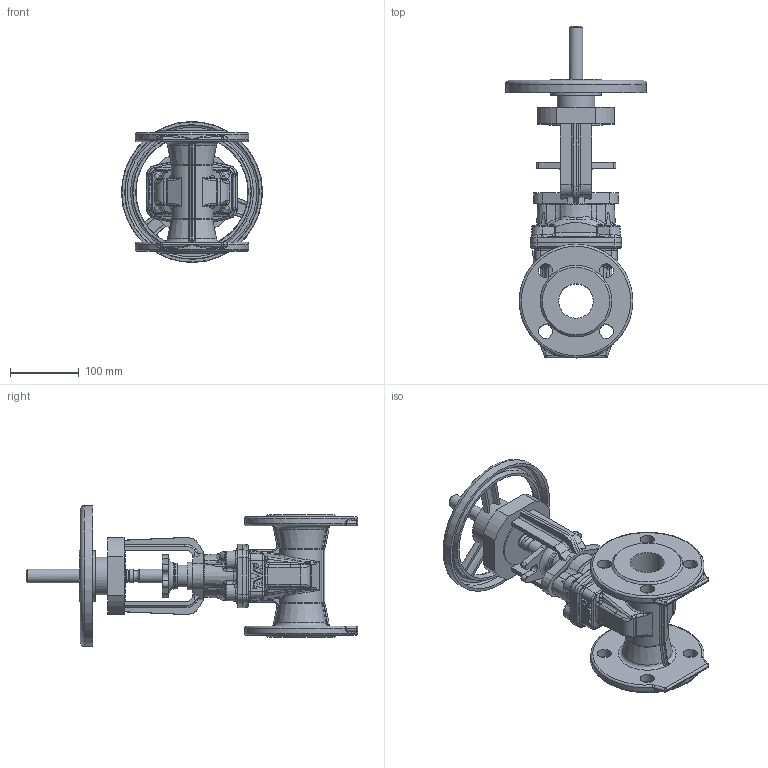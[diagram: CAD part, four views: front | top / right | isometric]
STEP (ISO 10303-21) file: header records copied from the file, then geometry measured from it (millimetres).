
FILE_DESCRIPTION (( 'STEP AP203' ), '1' );
FILE_NAME ('O_21_34_DN050_41XXXXX open_AA0.step', '2020-02-12T08:56:57', ( 'Windows User' ), ( 'AVK' ), 'SwSTEP 2.0', 'SolidWorks 2012', '' );
FILE_SCHEMA (( 'CONFIG_CONTROL_DESIGN' ));
Products named in the file (1): O_21_34_DN050_41XXXXX open_AA0
Bounding box: 204.91 x 482.4 x 204.91 mm (x, y, z)
Volume: 2446037.9 mm3; surface area: 366365.7 mm2
Topology: 1 solids, 1 shells, 810 faces, 1981 edges, 1164 vertices
Faces by surface type: bspline 294, cylinder 186, plane 180, torus 71, cone 67, sphere 12
Full cylindrical faces by diameter (mm): 18 x4, 20 x4, 20.5 x8, 31.9 x1, 37 x1, 40 x1, 50 x1, 55 x1, 74 x1, 165 x2
Entity records: 33301 total; most frequent: CARTESIAN_POINT 16855, ORIENTED_EDGE 3790, DIRECTION 2918, EDGE_CURVE 1895, AXIS2_PLACEMENT_3D 1178, VERTEX_POINT 1145, EDGE_LOOP 896, FACE_OUTER_BOUND 844
